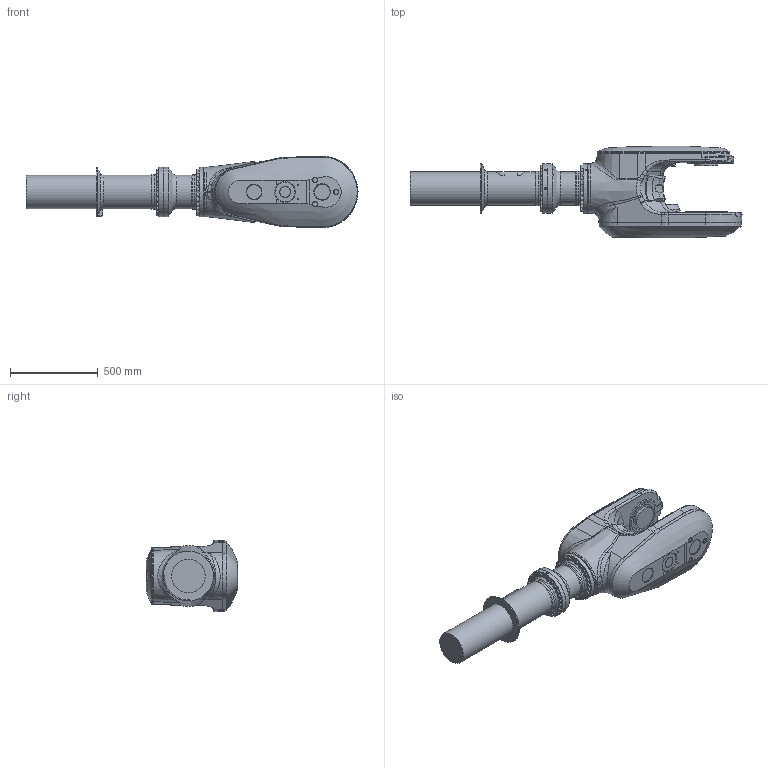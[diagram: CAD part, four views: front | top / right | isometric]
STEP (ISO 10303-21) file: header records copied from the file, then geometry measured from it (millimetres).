
FILE_DESCRIPTION (( 'STEP AP214' ), '1' );
FILE_NAME ('IRB7720_All-310_OC_00_LINK04_CAD.step', '2026-01-28T12:47:25', ( '' ), ( '' ), 'SwSTEP 2.0', 'SolidWorks 2024', '' );
FILE_SCHEMA (( 'AUTOMOTIVE_DESIGN' ));
Length unit declared in the file: millimetre
Products named in the file (1): IRB7720_All-310_OC_00_LINK04_CAD
Bounding box: 1888.54 x 520.5 x 406.39 mm (x, y, z)
Volume: 118118625.3 mm3; surface area: 2337729.6 mm2
Topology: 1 solids, 1 shells, 660 faces, 1627 edges, 1062 vertices
Faces by surface type: plane 295, cylinder 149, cone 115, bspline 93, torus 8
Full cylindrical faces by diameter (mm): 4.8 x2, 6.8 x6, 8.3 x2, 10.5 x1, 12 x3, 17.9 x2, 18 x2, 18.27 x50, 24 x1, 27 x1, 28 x5, 90 x1, 134 x1, 140 x1, 190 x3, 192 x2, 195 x2, 280 x4
Entity records: 34011 total; most frequent: CARTESIAN_POINT 13456, ORIENTED_EDGE 2742, DIRECTION 2424, EDGE_CURVE 1371, VERTEX_POINT 961, AXIS2_PLACEMENT_3D 946, EDGE_LOOP 908, FACE_OUTER_BOUND 758
